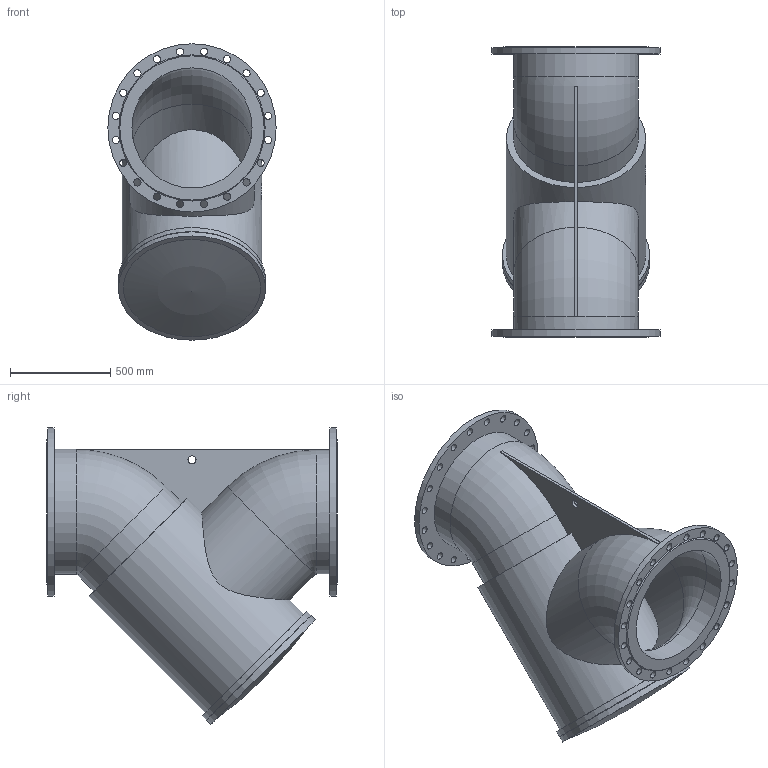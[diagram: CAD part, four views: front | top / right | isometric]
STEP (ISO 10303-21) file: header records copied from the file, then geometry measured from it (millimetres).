
FILE_DESCRIPTION(('STEP AP203'), '1');
FILE_NAME('Ôèëüòð ñåò÷àòûé ôëàíöåâûé 021Y.Z DN600 PN16', '', ('UNSPECIFIED'), ('UNSPECIFIED'), 'ASCON STEP Converter 1.6', 'ASCON Math Kernel', '');
FILE_SCHEMA(('CONFIG_CONTROL_DESIGN'));
Length unit declared in the file: millimetre
Bounding box: 840 x 1450 x 1480 mm (x, y, z)
Volume: 383496171 mm3; surface area: 8500953.3 mm2
Topology: 1 solids, 1 shells, 97 faces, 240 edges, 157 vertices
Faces by surface type: cylinder 63, plane 27, torus 4, cone 2, sphere 1
Full cylindrical faces by diameter (mm): 36 x40, 40 x1, 600 x4, 620 x1, 624 x1, 696 x1, 724 x1, 736 x2, 840 x2
Entity records: 4593 total; most frequent: CARTESIAN_POINT 1447, DIRECTION 493, ORIENTED_EDGE 360, EDGE_LOOP 250, AXIS2_PLACEMENT_3D 228, EDGE_CURVE 180, VERTEX_POINT 156, FACE_BOUND 136
